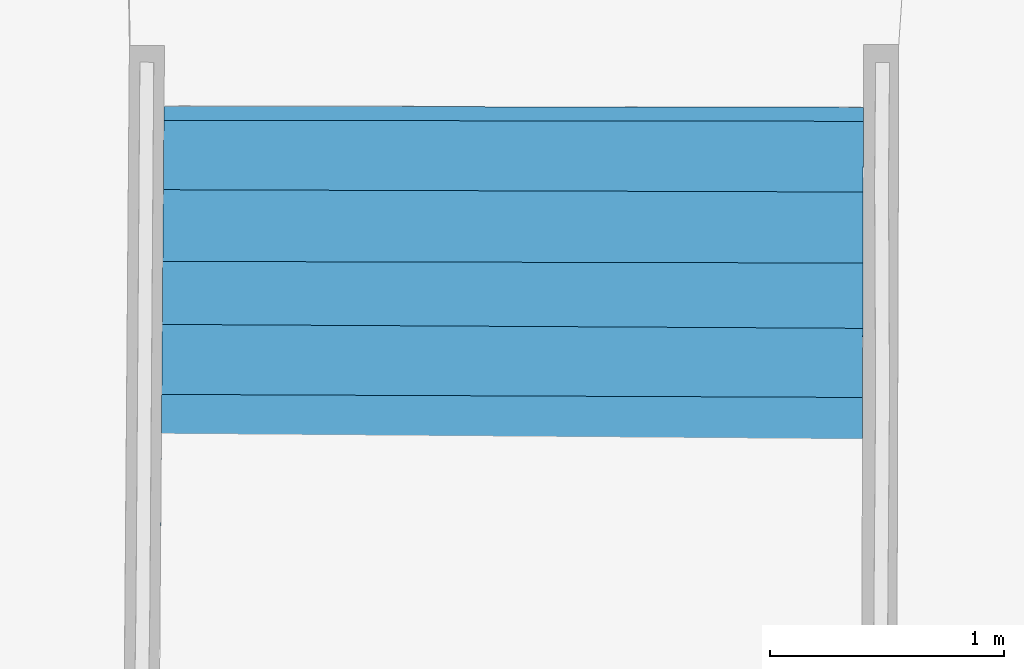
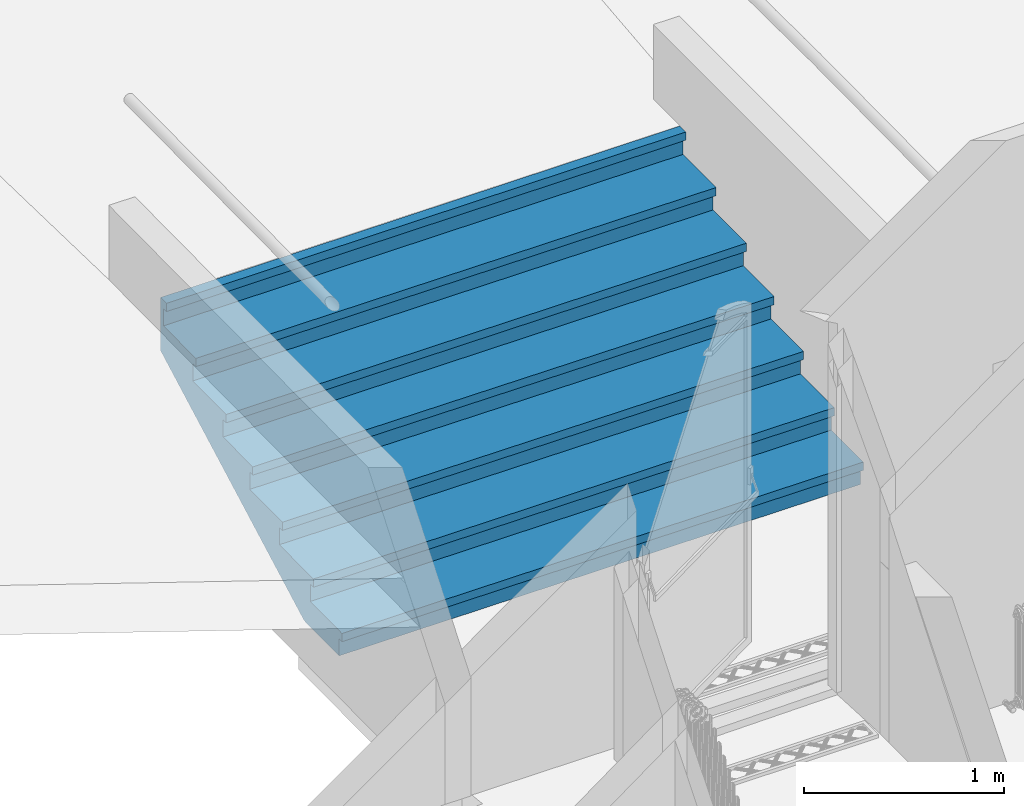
# One storey, part 116 of 133: 1 stair flight, 1 element without a shape of its own.
"""IFC2X3 building model written with IfcOpenShell, lengths in centimetres."""

from ifc_helpers import new_model, entity, si_unit, converted_unit, direction, frame, origin, origin_with_axes, place, context, subcontext, project, spatial, faceted_brep, material, element, aggregate, save


model = new_model("IFC2X3")

# Units and contexts
model_context = context("Model", 3, precision=0.0001, world=origin(), true_north=direction((0.225632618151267, 0.974212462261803, 0.0)))
body_context = subcontext(model_context, "Body", "Model", "MODEL_VIEW")
ifc_project = project(units=[si_unit("LENGTHUNIT", "METRE", prefix="CENTI"), si_unit("AREAUNIT", "SQUARE_METRE", prefix="CENTI"), si_unit("VOLUMEUNIT", "CUBIC_METRE", prefix="CENTI"), converted_unit("PLANEANGLEUNIT", "DEGREE", entity("IfcRatioMeasure", 0.0174532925), si_unit("PLANEANGLEUNIT", "RADIAN"), dimensions=[0, 0, 0, 0, 0, 0, 0])], contexts=[model_context])

# Site, building, storey
site_placement = place(None, origin_with_axes())
site = spatial("IfcSite", under=ifc_project, at=site_placement, Name="Default Site", CompositionType="ELEMENT")
building_placement = place(site_placement, origin_with_axes())
building = spatial("IfcBuilding", under=site, at=building_placement, Name="Default Building", CompositionType="ELEMENT")
storey_placement = place(building_placement, frame((0.0, 0.0, -291.400371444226), z_axis=(0.0, 0.0, 1.0), x_axis=(1.0, 0.0, 0.0)))
storey = spatial("IfcBuildingStorey", under=building, at=storey_placement, Name="Rez-de-Jardin", CompositionType="ELEMENT", Elevation=-291.400371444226)

# Stair, stair flight
stair_placement = place(storey_placement, frame((-204.571548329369, 745.950914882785, 4.0), z_axis=(0.0, 0.0, 1.0), x_axis=(1.0, 0.0, 0.0)))
stair = element("IfcStair", 1, at=stair_placement, inside=storey, Name="Escalier 92069", ShapeType="NOTDEFINED")
ifc_material = material(Name="Béton (01)")
stair_flight_placement = place(stair_placement, frame((-149.943884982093, 0.453971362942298, 10.4857748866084), z_axis=(0.0, 0.0, 1.0), x_axis=(0.00302788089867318, 0.999995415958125, 0.0)))
stair_flight = element("IfcStairFlight", 2, at=stair_flight_placement, material=ifc_material, Name="4294967276", context=body_context, shape_type="Brep", body=[
    faceted_brep([(-3.00003473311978, 0.0, -10.4857683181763), (0.0, 0.0, -10.4857683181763), (8.29809096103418e-05, -299.889144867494, -10.4857683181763), (-2.99990406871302, -299.889144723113, -10.4857683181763), (0.0, 0.0, 0.0), (-3.00003473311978, 0.0, 0.0), (-2.99990406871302, -299.889144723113, 0.0), (8.29809096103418e-05, -299.889144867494, 0.0), (-2.99990406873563, -299.889144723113, -10.4857683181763), (-3.00003473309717, 9.85260560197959e-18, 0.0), (-3.00003473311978, -2.54429813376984e-10, -10.4857683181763), (-2.157792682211e-20, 2.54429813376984e-10, 0.0), (5.67748744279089e-09, 1.57088326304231e-15, -10.4857683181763), (8.2975232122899e-05, -299.889144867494, 0.0), (8.29809096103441e-05, -299.889144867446, -10.4857683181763), (-2.99990406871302, -299.889144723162, 0.0)], [[[0, 1, 2]], [[2, 3, 0]], [[4, 5, 6]], [[6, 7, 4]], [[5, 0, 8]], [[3, 6, 9]], [[4, 1, 10]], [[0, 5, 11]], [[7, 2, 12]], [[1, 4, 13]], [[6, 3, 14]], [[2, 7, 15]]]),
    faceted_brep([(26.0278441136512, -0.140965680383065, 4.99999523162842), (29.0278284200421, -0.140059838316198, 4.99999523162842), (29.1188908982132, -299.886992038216, 4.99999523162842), (26.1189066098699, -299.88790384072, 4.99999523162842), (29.0278284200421, -0.140059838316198, 15.4857635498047), (26.0278441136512, -0.140965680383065, 15.4857635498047), (26.1189066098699, -299.88790384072, 15.4857635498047), (29.1188908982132, -299.886992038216, 15.4857635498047), (26.1189066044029, -299.887903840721, 4.99999523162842), (26.0278441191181, -0.140965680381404, 15.4857635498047), (26.0278441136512, -0.140965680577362, 4.99999523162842), (29.0278284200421, -0.140059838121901, 15.4857635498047), (29.0278284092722, -0.14005983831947, 4.99999523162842), (29.1188909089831, -299.886992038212, 15.4857635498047), (29.1188908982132, -299.886992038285, 4.99999523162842), (26.1189066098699, -299.88790384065, 15.4857635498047)], [[[0, 1, 2]], [[2, 3, 0]], [[4, 5, 6]], [[6, 7, 4]], [[5, 0, 8]], [[3, 6, 9]], [[4, 1, 10]], [[0, 5, 11]], [[7, 2, 12]], [[1, 4, 13]], [[6, 3, 14]], [[2, 7, 15]]]),
    faceted_brep([(57.3830969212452, -0.287377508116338, 20.4857587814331), (60.3830959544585, -0.291335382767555, 20.4857587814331), (59.989415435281, -299.884708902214, 20.4857587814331), (56.9894164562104, -299.880768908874, 20.4857587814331), (60.3830959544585, -0.291335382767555, 30.9715270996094), (57.3830969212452, -0.287377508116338, 30.9715270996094), (56.9894164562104, -299.880768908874, 30.9715270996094), (59.989415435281, -299.884708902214, 30.9715270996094), (56.9894164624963, -299.880768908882, 20.4857587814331), (57.3830969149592, -0.287377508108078, 30.9715270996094), (57.3830969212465, -0.287377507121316, 20.4857587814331), (60.3830959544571, -0.291335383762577, 30.9715270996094), (60.3830960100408, -0.291335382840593, 20.4857587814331), (59.9894153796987, -299.884708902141, 30.9715270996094), (59.9894154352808, -299.884708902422, 20.4857587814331), (56.9894164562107, -299.880768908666, 30.9715270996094)], [[[0, 1, 2]], [[2, 3, 0]], [[4, 5, 6]], [[6, 7, 4]], [[5, 0, 8]], [[3, 6, 9]], [[4, 1, 10]], [[0, 5, 11]], [[7, 2, 12]], [[1, 4, 13]], [[6, 3, 14]], [[2, 7, 15]]]),
    faceted_brep([(87.3051913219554, -0.427924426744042, 35.9715223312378), (90.3052019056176, -0.435696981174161, 35.9715223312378), (89.5289386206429, -299.882527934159, 35.9715223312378), (86.5289280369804, -299.874755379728, 35.9715223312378), (90.3052019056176, -0.435696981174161, 46.4572906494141), (87.3051913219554, -0.427924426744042, 46.4572906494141), (86.5289280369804, -299.874755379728, 46.4572906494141), (89.5289386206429, -299.882527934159, 46.4572906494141), (86.5289279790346, -299.874755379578, 35.9715223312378), (87.3051913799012, -0.427924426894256, 46.4572906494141), (87.3051913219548, -0.42792442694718, 35.9715223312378), (90.3052019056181, -0.435696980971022, 46.4572906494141), (90.3052019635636, -0.435696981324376, 35.9715223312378), (89.5289385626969, -299.882527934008, 46.4572906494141), (89.5289386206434, -299.882527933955, 35.9715223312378), (86.5289280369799, -299.874755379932, 46.4572906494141)], [[[0, 1, 2]], [[2, 3, 0]], [[4, 5, 6]], [[6, 7, 4]], [[5, 0, 8]], [[3, 6, 9]], [[4, 1, 10]], [[0, 5, 11]], [[7, 2, 12]], [[1, 4, 13]], [[6, 3, 14]], [[2, 7, 15]]]),
    faceted_brep([(114.235116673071, -0.56775611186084, 51.4572858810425), (117.235097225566, -0.565610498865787, 51.4572858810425), (117.448829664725, -299.880470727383, 51.4572858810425), (114.448849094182, -299.882610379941, 51.4572858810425), (117.235097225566, -0.565610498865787, 61.9430541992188), (114.235116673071, -0.56775611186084, 61.9430541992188), (114.448849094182, -299.882610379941, 61.9430541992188), (117.448829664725, -299.880470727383, 61.9430541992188), (114.448849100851, -299.882610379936, 51.4572858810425), (114.235116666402, -0.567756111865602, 61.9430541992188), (114.235116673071, -0.567756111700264, 51.4572858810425), (117.235097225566, -0.565610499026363, 61.9430541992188), (117.235097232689, -0.565610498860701, 51.4572858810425), (117.448829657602, -299.880470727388, 61.9430541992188), (117.448829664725, -299.880470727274, 51.4572858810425), (114.448849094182, -299.88261038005, 61.9430541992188)], [[[0, 1, 2]], [[2, 3, 0]], [[4, 5, 6]], [[6, 7, 4]], [[5, 0, 8]], [[3, 6, 9]], [[4, 1, 10]], [[0, 5, 11]], [[7, 2, 12]], [[1, 4, 13]], [[6, 3, 14]], [[2, 7, 15]]]),
    faceted_brep([(144.896897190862, -0.712572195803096, 66.9430732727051), (147.896887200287, -0.71354985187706, 66.9430732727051), (147.800505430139, -299.878226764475, 66.9430732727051), (144.800515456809, -299.877261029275, 66.9430732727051), (147.896887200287, -0.71354985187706, 77.4288296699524), (144.896897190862, -0.712572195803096, 77.4288296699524), (144.800515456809, -299.877261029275, 77.4288296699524), (147.800505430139, -299.878226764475, 77.4288296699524), (144.800515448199, -299.877261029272, 66.9430732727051), (144.896897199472, -0.71257219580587, 77.4288296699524), (144.896897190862, -0.712572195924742, 66.9430732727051), (147.896887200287, -0.713549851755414, 77.4288296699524), (147.896887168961, -0.713549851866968, 66.9430732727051), (147.800505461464, -299.878226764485, 77.4288296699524), (147.800505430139, -299.87822676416, 66.9430732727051), (144.800515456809, -299.87726102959, 77.4288296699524)], [[[0, 1, 2]], [[2, 3, 0]], [[4, 5, 6]], [[6, 7, 4]], [[5, 0, 8]], [[3, 6, 9]], [[4, 1, 10]], [[0, 5, 11]], [[7, 2, 12]], [[1, 4, 13]], [[6, 3, 14]], [[2, 7, 15]]]),
    faceted_brep([(174.548553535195, -0.861448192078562, 82.4288249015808), (177.54862129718, -0.856608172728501, 82.4288249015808), (178.031922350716, -299.875995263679, 82.4288249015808), (175.031854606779, -299.880841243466, 82.4288249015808), (177.54862129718, -0.856608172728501, 92.9145932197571), (174.548553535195, -0.861448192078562, 92.9145932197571), (175.031854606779, -299.880841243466, 92.9145932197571), (178.031922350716, -299.875995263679, 92.9145932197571), (175.031854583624, -299.880841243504, 82.4288249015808), (174.54855355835, -0.861448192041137, 92.9145932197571), (174.548553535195, -0.861448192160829, 82.4288249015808), (177.548621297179, -0.856608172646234, 92.9145932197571), (177.548621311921, -0.856608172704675, 82.4288249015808), (178.031922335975, -299.875995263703, 92.9145932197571), (178.031922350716, -299.875995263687, 82.4288249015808), (175.031854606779, -299.880841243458, 92.9145932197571)], [[[0, 1, 2]], [[2, 3, 0]], [[4, 5, 6]], [[6, 7, 4]], [[5, 0, 8]], [[3, 6, 9]], [[4, 1, 10]], [[0, 5, 11]], [[7, 2, 12]], [[1, 4, 13]], [[6, 3, 14]], [[2, 7, 15]]]),
    faceted_brep([(8.29809096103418e-05, -299.889144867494, -10.4857683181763), (8.29809096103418e-05, -299.889144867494, 0.0), (5.67748744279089e-09, 1.57088326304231e-15, 0.0), (0.0, 0.0, 0.0), (0.0, 0.0, -10.4857683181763), (8.2975232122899e-05, -299.889144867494, -10.4857683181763), (29.1188908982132, -299.886992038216, 0.0), (29.1188908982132, -299.886992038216, 15.4857635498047), (29.0278284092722, -0.14005983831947, 15.4857635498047), (29.0278284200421, -0.140059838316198, 15.4857635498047), (29.0278284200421, -0.140059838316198, 0.0), (29.1188909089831, -299.886992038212, 0.0), (59.989415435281, -299.884708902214, 15.4857635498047), (59.989415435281, -299.884708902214, 30.9715270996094), (60.3830960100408, -0.291335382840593, 30.9715270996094), (60.3830959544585, -0.291335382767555, 30.9715270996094), (60.3830959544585, -0.291335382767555, 15.4857635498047), (59.9894153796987, -299.884708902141, 15.4857635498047), (89.5289386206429, -299.882527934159, 30.9715270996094), (89.5289386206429, -299.882527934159, 46.4572906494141), (90.3052019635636, -0.435696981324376, 46.4572906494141), (90.3052019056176, -0.435696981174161, 46.4572906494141), (90.3052019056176, -0.435696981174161, 30.9715270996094), (89.5289385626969, -299.882527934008, 30.9715270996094), (117.448829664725, -299.880470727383, 46.4572906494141), (117.448829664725, -299.880470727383, 61.9430541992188), (117.235097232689, -0.565610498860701, 61.9430541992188), (117.235097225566, -0.565610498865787, 61.9430541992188), (117.235097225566, -0.565610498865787, 46.4572906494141), (117.448829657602, -299.880470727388, 46.4572906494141), (147.800505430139, -299.878226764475, 61.9430541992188), (147.800505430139, -299.878226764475, 77.4288296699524), (147.896887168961, -0.713549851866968, 77.4288296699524), (147.896887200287, -0.71354985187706, 77.4288296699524), (147.896887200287, -0.71354985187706, 61.9430541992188), (147.800505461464, -299.878226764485, 61.9430541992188), (178.031922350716, -299.875995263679, 77.4288296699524), (177.54862129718, -0.856608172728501, 77.4288296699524), (178.031922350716, -299.875995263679, 65.5039548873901), (177.548621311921, -0.856608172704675, 65.5039548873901), (177.54862129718, -0.856608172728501, 65.5039548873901), (178.031922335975, -299.875995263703, 77.4288296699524), (32.3413857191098, -0.156038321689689, -10.4857683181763), (32.4294903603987, -299.886749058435, -10.4857683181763), (8.29809095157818e-05, -299.889144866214, 0.0), (8.29809095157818e-05, -299.889144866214, -10.4857683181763), (32.4294903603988, -299.886749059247, -10.4857683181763), (29.1188908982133, -299.886992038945, 1.23847146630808e-16), (32.4294903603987, -299.886749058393, -10.4857683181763), (32.4294903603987, -299.886749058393, 15.4857635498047), (59.9894154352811, -299.884708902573, 15.4857635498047), (32.4294903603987, -299.886749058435, 15.4857635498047), (32.4294903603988, -299.886749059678, -10.4857683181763), (178.031922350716, -299.875995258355, 65.5039548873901), (178.031922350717, -299.875995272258, 65.5039548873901), (89.528938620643, -299.882527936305, 30.9715270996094), (89.5289386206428, -299.882527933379, 30.9715270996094), (178.031922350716, -299.87599527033, 65.5039548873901), (117.448829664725, -299.880470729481, 46.4572906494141), (117.448829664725, -299.880470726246, 46.4572906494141), (178.031922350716, -299.875995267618, 65.5039548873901), (147.800505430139, -299.878226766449, 61.9430541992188), (147.800505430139, -299.878226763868, 61.9430541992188), (178.031922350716, -299.875995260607, 65.5039548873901), (178.031922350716, -299.875995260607, 77.4288296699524), (32.3413857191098, -0.156038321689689, 15.4857635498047), (29.0278284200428, -0.140059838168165, 3.28266018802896e-29), (29.0278284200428, -0.140059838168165, 15.4857635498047), (1.8767423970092e-11, 3.88960571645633e-09, -10.4857683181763), (1.8767423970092e-11, 3.88960571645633e-09, 0.0), (29.0278284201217, -0.140059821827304, 1.34014713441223e-14), (32.3413857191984, -0.156038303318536, -10.4857683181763), (29.0278284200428, -0.140059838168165, 0.0), (60.3830959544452, -0.291335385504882, 15.4857635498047), (60.3830959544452, -0.291335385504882, 30.9715270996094), (90.3052019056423, -0.43569697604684, 30.9715270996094), (90.3052019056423, -0.43569697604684, 46.4572906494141), (117.235097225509, -0.565610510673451, 46.4572906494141), (117.235097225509, -0.565610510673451, 61.9430541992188), (147.896887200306, -0.713549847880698, 61.9430541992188), (147.896887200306, -0.713549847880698, 77.4288296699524), (32.3413857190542, -0.156038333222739, -10.4857683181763), (32.3413857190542, -0.156038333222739, 15.4857635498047), (60.3830959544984, -0.291335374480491, 15.4857635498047), (177.548621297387, -0.856608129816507, 65.5039548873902), (60.383095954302, -0.291335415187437, 15.4857635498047), (90.3052019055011, -0.435697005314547, 30.9715270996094), (90.3052019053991, -0.43569702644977, 30.9715270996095), (117.235097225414, -0.565610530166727, 46.4572906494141), (117.235097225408, -0.565610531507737, 46.457290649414), (147.896887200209, -0.713549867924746, 61.9430541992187), (32.3413857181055, -0.156038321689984, -10.4857683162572), (177.548622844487, -0.856608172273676, 65.5039519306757), (32.4294904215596, -299.886749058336, -10.4857684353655), (177.548621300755, -0.856608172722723, 65.5039548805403)], [[[0, 1, 2]], [[3, 4, 5]], [[6, 7, 8]], [[9, 10, 11]], [[12, 13, 14]], [[15, 16, 17]], [[18, 19, 20]], [[21, 22, 23]], [[24, 25, 26]], [[27, 28, 29]], [[30, 31, 32]], [[33, 34, 35]], [[1, 6, 10]], [[10, 3, 1]], [[7, 12, 16]], [[16, 9, 7]], [[13, 18, 22]], [[22, 15, 13]], [[19, 24, 28]], [[28, 21, 19]], [[25, 30, 34]], [[34, 27, 25]], [[31, 36, 37]], [[37, 33, 31]], [[36, 38, 39]], [[40, 37, 41]], [[42, 43, 0]], [[0, 4, 42]], [[43, 44, 45]], [[1, 46, 47]], [[6, 48, 7]], [[7, 48, 49]], [[43, 50, 51]], [[12, 52, 53]], [[12, 54, 55]], [[12, 56, 13]], [[18, 57, 58]], [[18, 59, 19]], [[24, 60, 61]], [[24, 62, 25]], [[30, 63, 31]], [[31, 63, 64]], [[65, 66, 67]], [[10, 68, 69]], [[4, 70, 71]], [[42, 72, 65]], [[22, 73, 74]], [[28, 75, 76]], [[34, 77, 78]], [[37, 79, 80]], [[16, 81, 82]], [[42, 83, 84]], [[40, 85, 86]], [[40, 87, 88]], [[40, 89, 90]], [[40, 79, 37]], [[43, 91, 92]], [[38, 93, 94]]]),
    faceted_brep([(-5.99988978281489, -299.889585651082, 4.99999523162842), (29.1188908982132, -299.886992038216, 4.99999523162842), (29.0278284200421, -0.140059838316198, 4.99999523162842), (-6.00001405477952, 0.0289443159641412, 4.99999523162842), (29.0278284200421, -0.140059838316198, 0.0), (29.1188908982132, -299.886992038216, 0.0), (-5.99988978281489, -299.889585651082, 0.0), (-6.00001405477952, 0.0289443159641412, 0.0), (-6.00001403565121, 0.0289443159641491, 4.99999523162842), (-5.99988980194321, -299.889585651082, 0.0), (-5.99988978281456, -299.889585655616, 4.99999523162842), (29.1188908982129, -299.886992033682, 0.0), (29.1188909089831, -299.886992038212, 4.99999523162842), (29.0278284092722, -0.14005983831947, 0.0), (29.0278284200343, -0.140059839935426, 4.99999523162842), (-6.00001405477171, 0.028944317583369, 0.0)], [[[0, 1, 2]], [[2, 3, 0]], [[4, 5, 6]], [[6, 7, 4]], [[6, 0, 8]], [[3, 7, 9]], [[5, 1, 10]], [[0, 6, 11]], [[4, 2, 12]], [[1, 5, 13]], [[7, 3, 14]], [[2, 4, 15]]]),
    faceted_brep([(23.1189223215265, -299.888815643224, 20.4857587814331), (59.989415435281, -299.884708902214, 20.4857587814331), (60.3830959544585, -0.291335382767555, 20.4857587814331), (23.0278142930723, -0.111091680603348, 20.4857587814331), (60.3830959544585, -0.291335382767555, 15.4857635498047), (59.989415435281, -299.884708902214, 15.4857635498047), (23.1189223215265, -299.888815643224, 15.4857635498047), (23.0278142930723, -0.111091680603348, 15.4857635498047), (23.0278142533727, -0.111091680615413, 20.4857587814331), (23.1189223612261, -299.888815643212, 15.4857635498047), (23.1189223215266, -299.888815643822, 20.4857587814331), (59.989415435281, -299.884708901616, 15.4857635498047), (59.9894153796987, -299.884708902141, 20.4857587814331), (60.3830960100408, -0.291335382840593, 15.4857635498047), (60.3830959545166, -0.291335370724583, 20.4857587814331), (23.0278142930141, -0.11109169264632, 15.4857635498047)], [[[0, 1, 2]], [[2, 3, 0]], [[4, 5, 6]], [[6, 7, 4]], [[6, 0, 8]], [[3, 7, 9]], [[5, 1, 10]], [[0, 6, 11]], [[4, 2, 12]], [[1, 5, 13]], [[7, 3, 14]], [[2, 4, 15]]]),
    faceted_brep([(53.9893697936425, -299.876829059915, 35.9715223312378), (89.5289386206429, -299.882527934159, 35.9715223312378), (90.3052019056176, -0.435696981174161, 35.9715223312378), (54.3831295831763, -0.262390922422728, 35.9715223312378), (90.3052019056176, -0.435696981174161, 30.9715270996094), (89.5289386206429, -299.882527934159, 30.9715270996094), (53.9893697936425, -299.876829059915, 30.9715270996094), (54.3831295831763, -0.262390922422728, 30.9715270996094), (54.3831295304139, -0.262390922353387, 35.9715223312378), (53.9893698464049, -299.876829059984, 30.9715270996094), (53.9893697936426, -299.876829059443, 35.9715223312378), (89.5289386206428, -299.882527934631, 30.9715270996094), (89.5289385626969, -299.882527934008, 35.9715223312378), (90.3052019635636, -0.435696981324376, 30.9715270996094), (90.3052019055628, -0.435696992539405, 35.9715223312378), (54.3831295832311, -0.262390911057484, 30.9715270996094)], [[[0, 1, 2]], [[2, 3, 0]], [[4, 5, 6]], [[6, 7, 4]], [[6, 0, 8]], [[3, 7, 9]], [[5, 1, 10]], [[0, 6, 11]], [[4, 2, 12]], [[1, 5, 13]], [[7, 3, 14]], [[2, 4, 15]]]),
    faceted_brep([(83.5289658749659, -299.882974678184, 51.4572858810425), (117.448829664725, -299.880470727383, 51.4572858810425), (117.235097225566, -0.565610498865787, 51.4572858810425), (84.3052355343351, -0.406752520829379, 51.4572858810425), (117.235097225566, -0.565610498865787, 46.4572906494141), (117.448829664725, -299.880470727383, 46.4572906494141), (83.5289658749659, -299.882974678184, 46.4572906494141), (84.3052355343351, -0.406752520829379, 46.4572906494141), (84.3052355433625, -0.406752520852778, 51.4572858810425), (83.5289658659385, -299.88297467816, 46.4572906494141), (83.528965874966, -299.88297468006, 51.4572858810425), (117.448829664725, -299.880470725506, 46.4572906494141), (117.448829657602, -299.880470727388, 51.4572858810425), (117.235097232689, -0.565610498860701, 46.4572906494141), (117.235097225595, -0.56561049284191, 51.4572858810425), (84.3052355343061, -0.406752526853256, 46.4572906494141)], [[[0, 1, 2]], [[2, 3, 0]], [[4, 5, 6]], [[6, 7, 4]], [[6, 0, 8]], [[3, 7, 9]], [[5, 1, 10]], [[0, 6, 11]], [[4, 2, 12]], [[1, 5, 13]], [[7, 3, 14]], [[2, 4, 15]]]),
    faceted_brep([(111.44886852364, -299.884750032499, 66.9430732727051), (147.800505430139, -299.878226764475, 66.9430732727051), (147.896887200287, -0.71354985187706, 66.9430732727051), (111.235035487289, -0.536666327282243, 66.9430732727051), (147.896887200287, -0.71354985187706, 61.9430541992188), (147.800505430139, -299.878226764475, 61.9430541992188), (111.44886852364, -299.884750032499, 61.9430541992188), (111.235035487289, -0.536666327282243, 61.9430541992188), (111.235035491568, -0.536666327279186, 66.9430732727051), (111.448868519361, -299.884750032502, 61.9430541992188), (111.448868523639, -299.884750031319, 66.9430732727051), (147.800505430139, -299.878226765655, 61.9430541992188), (147.800505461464, -299.878226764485, 66.9430732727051), (147.896887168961, -0.713549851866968, 61.9430541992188), (147.896887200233, -0.71354986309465, 66.9430732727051), (111.235035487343, -0.536666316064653, 61.9430541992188)], [[[0, 1, 2]], [[2, 3, 0]], [[4, 5, 6]], [[6, 7, 4]], [[6, 0, 8]], [[3, 7, 9]], [[5, 1, 10]], [[0, 6, 11]], [[4, 2, 12]], [[1, 5, 13]], [[7, 3, 14]], [[2, 4, 15]]]),
    faceted_brep([(141.800525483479, -299.876295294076, 82.4288249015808), (178.031922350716, -299.875995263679, 82.4288249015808), (177.54862129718, -0.856608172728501, 82.4288249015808), (141.896920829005, -0.684605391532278, 82.4288249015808), (177.54862129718, -0.856608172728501, 77.4288296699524), (178.031922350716, -299.875995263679, 77.4288296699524), (141.800525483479, -299.876295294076, 77.4288296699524), (141.896920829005, -0.684605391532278, 77.4288296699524), (141.896920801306, -0.684605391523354, 82.4288249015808), (141.800525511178, -299.876295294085, 77.4288296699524), (141.800525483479, -299.876295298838, 82.4288249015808), (178.031922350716, -299.875995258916, 77.4288296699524), (178.031922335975, -299.875995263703, 82.4288249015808), (177.548621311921, -0.856608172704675, 77.4288296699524), (177.548621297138, -0.856608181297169, 82.4288249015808), (141.896920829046, -0.68460538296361, 77.4288296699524)], [[[0, 1, 2]], [[2, 3, 0]], [[4, 5, 6]], [[6, 7, 4]], [[6, 0, 8]], [[3, 7, 9]], [[5, 1, 10]], [[0, 6, 11]], [[4, 2, 12]], [[1, 5, 13]], [[7, 3, 14]], [[2, 4, 15]]]),
    faceted_brep([(172.031882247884, -299.885692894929, 97.9146003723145), (178.031922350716, -299.875995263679, 97.9146003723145), (177.54862129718, -0.856608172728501, 97.9146003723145), (171.548581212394, -0.86631176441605, 97.9146003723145), (178.031922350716, -299.875995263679, 92.9145932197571), (172.031882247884, -299.885692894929, 92.9145932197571), (171.548581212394, -0.86631176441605, 92.9145932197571), (177.54862129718, -0.856608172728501, 92.9145932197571), (171.548581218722, -0.866311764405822, 97.9146003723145), (172.031882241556, -299.885692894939, 92.9145932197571), (172.031882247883, -299.885692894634, 97.9146003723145), (178.031922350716, -299.875995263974, 92.9145932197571), (178.031922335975, -299.875995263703, 97.9146003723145), (177.548621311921, -0.856608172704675, 92.9145932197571), (177.54862129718, -0.856608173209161, 97.9146003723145), (171.548581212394, -0.86631176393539, 92.9145932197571)], [[[0, 1, 2]], [[2, 3, 0]], [[4, 5, 6]], [[6, 7, 4]], [[5, 0, 8]], [[3, 6, 9]], [[4, 1, 10]], [[0, 5, 11]], [[7, 2, 12]], [[1, 4, 13]], [[6, 3, 14]], [[2, 7, 15]]]),
])
aggregate(stair, [stair_flight])

save(model, "model.ifc")
